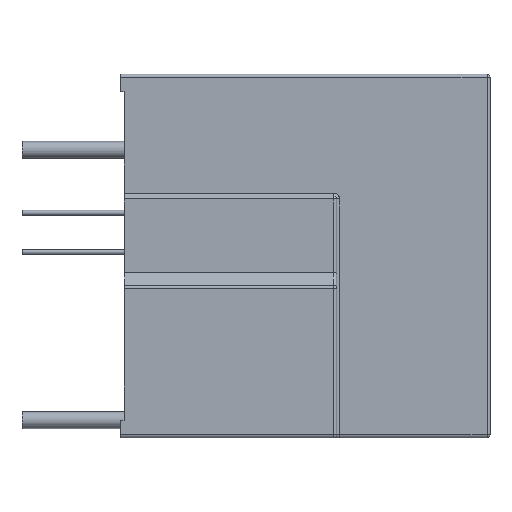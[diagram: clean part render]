
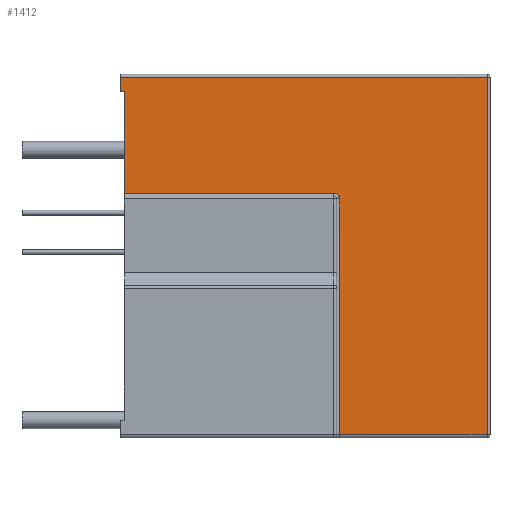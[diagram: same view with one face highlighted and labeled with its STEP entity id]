
A CAD part, left-side view. The second image highlights one B-rep face of the part: STEP entity #1412.
In plain terms, the highlighted planar face has unit normal (-1, 0, 0).
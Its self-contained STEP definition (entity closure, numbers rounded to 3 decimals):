
#140=DIRECTION('',(0.,0.,1.));
#141=VECTOR('',#140,1.5);
#142=CARTESIAN_POINT('',(-6.3,37.6,-1.8));
#143=LINE('',#142,#141);
#208=DIRECTION('',(0.,0.,1.));
#209=VECTOR('',#208,10.3);
#210=CARTESIAN_POINT('',(-6.3,37.2,-12.1));
#211=LINE('',#210,#209);
#390=DIRECTION('',(0.,1.,0.));
#391=VECTOR('',#390,21.3);
#392=CARTESIAN_POINT('',(-6.3,15.9,-12.1));
#393=LINE('',#392,#391);
#394=DIRECTION('',(0.,1.,0.));
#395=VECTOR('',#394,0.4);
#396=CARTESIAN_POINT('',(-6.3,37.2,-1.8));
#397=LINE('',#396,#395);
#398=DIRECTION('',(0.,1.,0.));
#399=VECTOR('',#398,37.3);
#400=CARTESIAN_POINT('',(-6.3,0.3,-0.3));
#401=LINE('',#400,#399);
#402=DIRECTION('',(0.,0.,1.));
#403=VECTOR('',#402,36.4);
#404=CARTESIAN_POINT('',(-6.3,0.3,-36.7));
#405=LINE('',#404,#403);
#406=DIRECTION('',(0.,1.,0.));
#407=VECTOR('',#406,15.);
#408=CARTESIAN_POINT('',(-6.3,0.3,-36.7));
#409=LINE('',#408,#407);
#410=DIRECTION('',(0.,0.,1.));
#411=VECTOR('',#410,24.);
#412=CARTESIAN_POINT('',(-6.3,15.3,-36.7));
#413=LINE('',#412,#411);
#414=CARTESIAN_POINT('',(-6.3,15.9,-12.7));
#415=DIRECTION('',(1.,0.,0.));
#416=DIRECTION('',(0.,0.,1.));
#417=AXIS2_PLACEMENT_3D('',#414,#415,#416);
#783=CARTESIAN_POINT('',(-6.3,37.6,-1.8));
#784=VERTEX_POINT('',#783);
#811=CARTESIAN_POINT('',(-6.3,37.2,-1.8));
#812=VERTEX_POINT('',#811);
#871=CARTESIAN_POINT('',(-6.3,15.9,-12.1));
#872=CARTESIAN_POINT('',(-6.3,37.2,-12.1));
#873=VERTEX_POINT('',#871);
#874=VERTEX_POINT('',#872);
#923=CARTESIAN_POINT('',(-6.3,37.6,-0.3));
#925=VERTEX_POINT('',#923);
#927=CARTESIAN_POINT('',(-6.3,0.3,-0.3));
#928=VERTEX_POINT('',#927);
#929=CARTESIAN_POINT('',(-6.3,0.3,-36.7));
#930=VERTEX_POINT('',#929);
#931=CARTESIAN_POINT('',(-6.3,15.3,-36.7));
#932=VERTEX_POINT('',#931);
#951=CARTESIAN_POINT('',(-6.3,15.3,-12.7));
#952=VERTEX_POINT('',#951);
#1389=CARTESIAN_POINT('',(-6.3,0.,-12.4));
#1390=DIRECTION('',(-1.,0.,0.));
#1391=DIRECTION('',(0.,0.,1.));
#1392=AXIS2_PLACEMENT_3D('',#1389,#1390,#1391);
#1393=PLANE('',#1392);
#1395=ORIENTED_EDGE('',*,*,#1394,.T.);
#1396=ORIENTED_EDGE('',*,*,#1156,.T.);
#1398=ORIENTED_EDGE('',*,*,#1397,.T.);
#1399=ORIENTED_EDGE('',*,*,#1122,.T.);
#1401=ORIENTED_EDGE('',*,*,#1400,.F.);
#1403=ORIENTED_EDGE('',*,*,#1402,.F.);
#1405=ORIENTED_EDGE('',*,*,#1404,.T.);
#1407=ORIENTED_EDGE('',*,*,#1406,.T.);
#1409=ORIENTED_EDGE('',*,*,#1408,.F.);
#1410=EDGE_LOOP('',(#1395,#1396,#1398,#1399,#1401,#1403,#1405,#1407,#1409));
#1411=FACE_OUTER_BOUND('',#1410,.F.);
#1412=ADVANCED_FACE('',(#1411),#1393,.T.);
#418=CIRCLE('',#417,0.6);
#1122=EDGE_CURVE('',#784,#925,#143,.T.);
#1156=EDGE_CURVE('',#874,#812,#211,.T.);
#1394=EDGE_CURVE('',#873,#874,#393,.T.);
#1397=EDGE_CURVE('',#812,#784,#397,.T.);
#1400=EDGE_CURVE('',#928,#925,#401,.T.);
#1402=EDGE_CURVE('',#930,#928,#405,.T.);
#1404=EDGE_CURVE('',#930,#932,#409,.T.);
#1406=EDGE_CURVE('',#932,#952,#413,.T.);
#1408=EDGE_CURVE('',#873,#952,#418,.T.);
